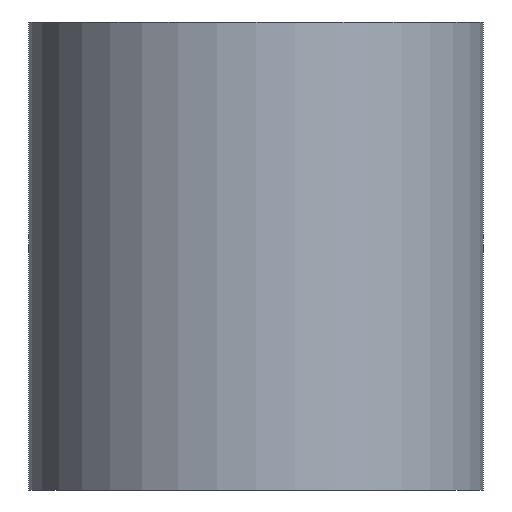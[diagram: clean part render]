
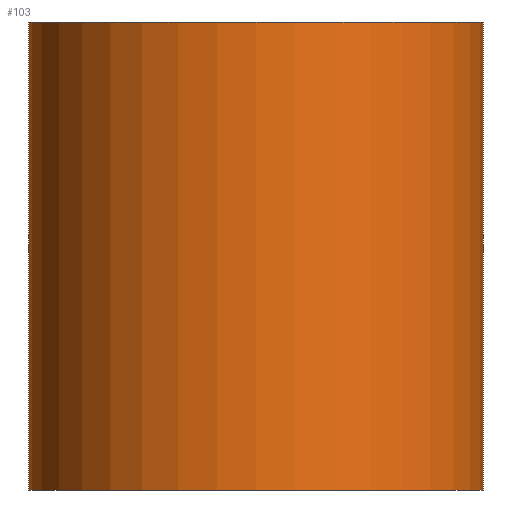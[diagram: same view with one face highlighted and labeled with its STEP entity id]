
A CAD part, left-side view. The second image highlights one B-rep face of the part: STEP entity #103.
In plain terms, the highlighted cylindrical face has radius 17 mm (diameter 34 mm), a partial arc.
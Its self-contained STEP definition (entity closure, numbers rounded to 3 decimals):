
#103=ADVANCED_FACE('',(#113),#109,.T.);
#109=CYLINDRICAL_SURFACE('',#188,17.);
#113=FACE_OUTER_BOUND('',#117,.T.);
#117=EDGE_LOOP('',(#133,#134,#135,#136));
#125=CIRCLE('',#186,17.);
#126=CIRCLE('',#187,17.);
#133=ORIENTED_EDGE('',*,*,#165,.T.);
#134=ORIENTED_EDGE('',*,*,#166,.F.);
#135=ORIENTED_EDGE('',*,*,#167,.F.);
#136=ORIENTED_EDGE('',*,*,#168,.T.);
#157=VERTEX_POINT('',#236);
#158=VERTEX_POINT('',#237);
#159=VERTEX_POINT('',#239);
#160=VERTEX_POINT('',#241);
#165=EDGE_CURVE('',#157,#158,#177,.T.);
#166=EDGE_CURVE('',#159,#158,#125,.T.);
#167=EDGE_CURVE('',#160,#159,#178,.T.);
#168=EDGE_CURVE('',#160,#157,#126,.T.);
#177=LINE('',#235,#181);
#178=LINE('',#240,#182);
#181=VECTOR('',#202,1.);
#182=VECTOR('',#205,1.);
#186=AXIS2_PLACEMENT_3D('',#238,#203,#204);
#187=AXIS2_PLACEMENT_3D('',#242,#206,#207);
#188=AXIS2_PLACEMENT_3D('',#243,#208,#209);
#202=DIRECTION('',(0.,0.,1.));
#203=DIRECTION('',(0.,0.,1.));
#204=DIRECTION('',(1.,0.,0.));
#205=DIRECTION('',(0.,0.,1.));
#206=DIRECTION('',(0.,0.,1.));
#207=DIRECTION('',(1.,0.,0.));
#208=DIRECTION('',(0.,0.,1.));
#209=DIRECTION('',(-1.,0.,0.));
#235=CARTESIAN_POINT('',(0.,-17.,0.));
#236=CARTESIAN_POINT('',(0.,-17.,0.));
#237=CARTESIAN_POINT('',(0.,-17.,35.));
#238=CARTESIAN_POINT('',(0.,0.,35.));
#239=CARTESIAN_POINT('',(0.,17.,35.));
#240=CARTESIAN_POINT('',(0.,17.,0.));
#241=CARTESIAN_POINT('',(0.,17.,0.));
#242=CARTESIAN_POINT('',(0.,0.,0.));
#243=CARTESIAN_POINT('',(0.,0.,0.));
